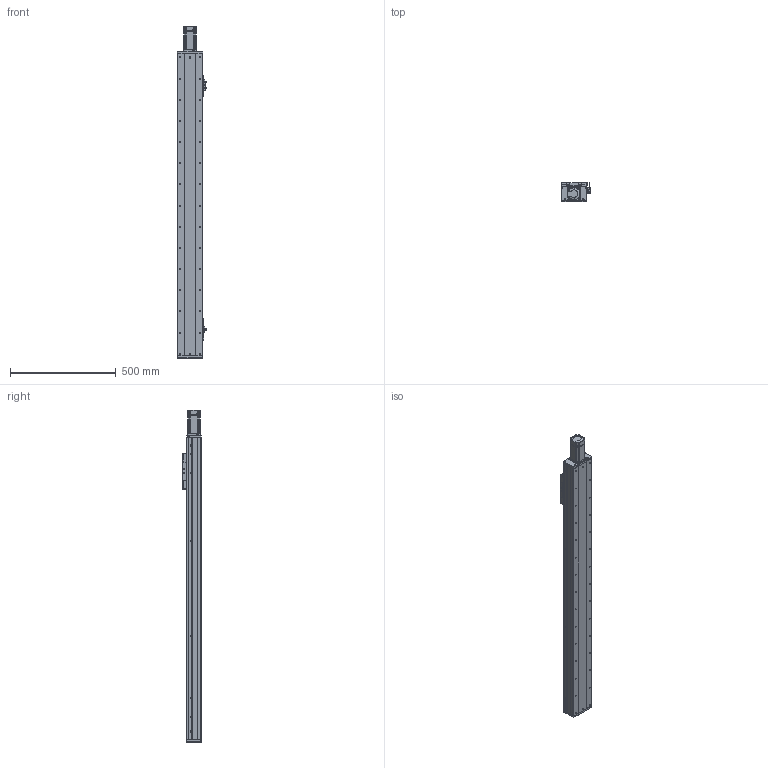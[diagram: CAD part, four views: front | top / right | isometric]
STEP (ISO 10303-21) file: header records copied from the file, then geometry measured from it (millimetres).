
FILE_DESCRIPTION (( 'STEP AP203' ), '1' );
FILE_NAME ('RY120F-L2010-1000-MK.SLDASM_1150.step', '2021-03-02T06:06:07', ( '盈信电脑' ), ( '东莞市道滘镇水果街19号' ), 'SwSTEP 2.0', 'SolidWorks 2012', '' );
FILE_SCHEMA (( 'CONFIG_CONTROL_DESIGN' ));
Length unit declared in the file: millimetre
Products named in the file (23): RY120F-蚥薯蝶幗謫郪磁; RY120F-L2010-1000-MK.SLDASM_1150; MF95ZZ; 粣杶; 蚥薯蝶幗謫; RY120F-钢带滚轮轴(优力胶); 滅袉蝶18-17; RY80俋离覜茼え; FY120F詩湍揤踡輸; 滅袉蝶18-24; 672嫖萇羲壽假蚾釱; RY120F綴裔啣(臏璃ㄘ; 覜茼ん672; 15; RY120F眻蟀ヶ裔啣; RY120F不锈钢防尘盖(优力胶）; 侂狟400W侜督萇儂; RY120F滅鳥詩湍-1000-MK_1150; RY120F-铝滑块上座（优力胶）; RY120F-臏賑輸 20蹟譫; 絳寢賑輸EGH15; RY120F-1000-倰第裔啣_1150; RY120F-1000-倰第菁釱_1150
Assembly tree (34 placements, depth 3):
  RY120F-L2010-1000-MK.SLDASM_1150
    RY120F-1000-倰第菁釱_1150
    RY120F-1000-倰第裔啣_1150  x2
    RY120F滅鳥詩湍-1000-MK_1150
    RY120F-臏賑輸 20蹟譫
    絳寢賑輸EGH15  x2
    RY120F-铝滑块上座（优力胶）
    侂狟400W侜督萇儂
      15
    RY120F眻蟀ヶ裔啣
    RY120F不锈钢防尘盖(优力胶）
    滅袉蝶18-24
    RY120F綴裔啣(臏璃ㄘ
    覜茼ん672  x3
    672嫖萇羲壽假蚾釱  x2
    RY80俋离覜茼え
    FY120F詩湍揤踡輸  x2
    滅袉蝶18-17  x2
    RY120F-蚥薯蝶幗謫郪磁
      RY120F-钢带滚轮轴(优力胶)
      蚥薯蝶幗謫  x2
      MF95ZZ  x4
      粣杶  x2
Bounding box: 140.35 x 89 x 1568.5 mm (x, y, z)
Volume: 4608817.9 mm3; surface area: 1678910.3 mm2
Topology: 32 solids, 32 shells, 2309 faces, 6137 edges, 3927 vertices
Faces by surface type: cylinder 1080, plane 988, cone 223, bspline 18
Entity records: 61716 total; most frequent: CARTESIAN_POINT 11122, DIRECTION 10399, ORIENTED_EDGE 9650, EDGE_CURVE 4825, AXIS2_PLACEMENT_3D 3788, VERTEX_POINT 3159, VECTOR 2823, LINE 2823
